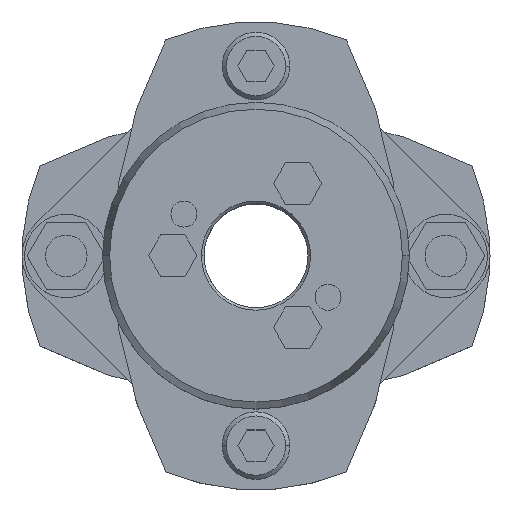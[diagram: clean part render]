
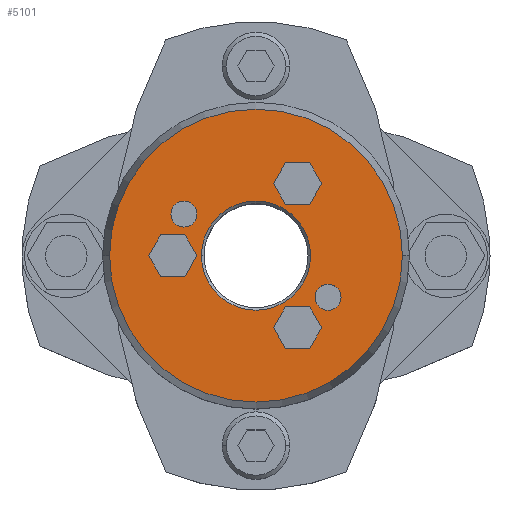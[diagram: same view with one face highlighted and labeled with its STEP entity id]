
A CAD part, top view. The second image highlights one B-rep face of the part: STEP entity #5101.
In plain terms, the highlighted planar face has unit normal (0, 0, 1).
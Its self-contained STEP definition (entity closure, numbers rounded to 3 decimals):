
#857=CARTESIAN_POINT('',(-10.5,0.,39.25));
#858=VERTEX_POINT('',#857);
#874=CARTESIAN_POINT('',(10.5,0.,39.25));
#875=VERTEX_POINT('',#874);
#882=CARTESIAN_POINT('',(0.,0.,39.25));
#883=DIRECTION('',(0.0,0.0,1.0));
#884=DIRECTION('',(-1.0,0.0,0.0));
#885=AXIS2_PLACEMENT_3D('',#882,#883,#884);
#886=CIRCLE('',#885,10.5);
#887=EDGE_CURVE('',#875,#858,#886,.T.);
#1045=CARTESIAN_POINT('',(28.16,0.,39.25));
#1046=VERTEX_POINT('',#1045);
#1053=CARTESIAN_POINT('',(-28.16,0.,39.25));
#1054=VERTEX_POINT('',#1053);
#1055=CARTESIAN_POINT('',(0.,0.,39.25));
#1056=DIRECTION('',(0.0,0.0,-1.0));
#1057=DIRECTION('',(1.0,0.0,0.0));
#1058=AXIS2_PLACEMENT_3D('',#1055,#1056,#1057);
#1059=CIRCLE('',#1058,28.16);
#1060=EDGE_CURVE('',#1046,#1054,#1059,.T.);
#1303=CARTESIAN_POINT('',(-16.356,8.,39.25));
#1304=VERTEX_POINT('',#1303);
#1320=CARTESIAN_POINT('',(-11.356,8.,39.25));
#1321=VERTEX_POINT('',#1320);
#1328=CARTESIAN_POINT('',(-13.856,8.,39.25));
#1329=DIRECTION('',(0.0,0.0,-1.0));
#1330=DIRECTION('',(-1.0,0.0,0.0));
#1331=AXIS2_PLACEMENT_3D('',#1328,#1329,#1330);
#1332=CIRCLE('',#1331,2.5);
#1333=EDGE_CURVE('',#1304,#1321,#1332,.T.);
#1345=CARTESIAN_POINT('',(11.356,-8.,39.25));
#1346=VERTEX_POINT('',#1345);
#1362=CARTESIAN_POINT('',(16.356,-8.,39.25));
#1363=VERTEX_POINT('',#1362);
#1370=CARTESIAN_POINT('',(13.856,-8.,39.25));
#1371=DIRECTION('',(0.0,0.0,-1.0));
#1372=DIRECTION('',(-1.0,0.0,0.0));
#1373=AXIS2_PLACEMENT_3D('',#1370,#1371,#1372);
#1374=CIRCLE('',#1373,2.5);
#1375=EDGE_CURVE('',#1346,#1363,#1374,.T.);
#3617=CARTESIAN_POINT('',(3.381,13.856,39.25));
#3618=VERTEX_POINT('',#3617);
#3625=CARTESIAN_POINT('',(5.691,9.856,39.25));
#3626=VERTEX_POINT('',#3625);
#3627=CARTESIAN_POINT('',(5.691,9.856,39.25));
#3628=DIRECTION('',(-0.5,0.866,0.0));
#3629=VECTOR('',#3628,4.619);
#3630=LINE('',#3627,#3629);
#3631=EDGE_CURVE('',#3626,#3618,#3630,.T.);
#3655=CARTESIAN_POINT('',(5.691,17.856,39.25));
#3656=VERTEX_POINT('',#3655);
#3663=CARTESIAN_POINT('',(3.381,13.856,39.25));
#3664=DIRECTION('',(0.5,0.866,0.0));
#3665=VECTOR('',#3664,4.619);
#3666=LINE('',#3663,#3665);
#3667=EDGE_CURVE('',#3618,#3656,#3666,.T.);
#3686=CARTESIAN_POINT('',(10.309,17.856,39.25));
#3687=VERTEX_POINT('',#3686);
#3694=CARTESIAN_POINT('',(5.691,17.856,39.25));
#3695=DIRECTION('',(1.0,0.0,0.0));
#3696=VECTOR('',#3695,4.619);
#3697=LINE('',#3694,#3696);
#3698=EDGE_CURVE('',#3656,#3687,#3697,.T.);
#3717=CARTESIAN_POINT('',(12.619,13.856,39.25));
#3718=VERTEX_POINT('',#3717);
#3725=CARTESIAN_POINT('',(10.309,17.856,39.25));
#3726=DIRECTION('',(0.5,-0.866,0.0));
#3727=VECTOR('',#3726,4.619);
#3728=LINE('',#3725,#3727);
#3729=EDGE_CURVE('',#3687,#3718,#3728,.T.);
#3748=CARTESIAN_POINT('',(10.309,9.856,39.25));
#3749=VERTEX_POINT('',#3748);
#3756=CARTESIAN_POINT('',(12.619,13.856,39.25));
#3757=DIRECTION('',(-0.5,-0.866,0.0));
#3758=VECTOR('',#3757,4.619);
#3759=LINE('',#3756,#3758);
#3760=EDGE_CURVE('',#3718,#3749,#3759,.T.);
#3778=CARTESIAN_POINT('',(10.309,9.856,39.25));
#3779=DIRECTION('',(-1.0,0.0,0.0));
#3780=VECTOR('',#3779,4.619);
#3781=LINE('',#3778,#3780);
#3782=EDGE_CURVE('',#3749,#3626,#3781,.T.);
#3817=CARTESIAN_POINT('',(-20.619,0.,39.25));
#3818=VERTEX_POINT('',#3817);
#3825=CARTESIAN_POINT('',(-18.309,-4.,39.25));
#3826=VERTEX_POINT('',#3825);
#3827=CARTESIAN_POINT('',(-18.309,-4.,39.25));
#3828=DIRECTION('',(-0.5,0.866,0.0));
#3829=VECTOR('',#3828,4.619);
#3830=LINE('',#3827,#3829);
#3831=EDGE_CURVE('',#3826,#3818,#3830,.T.);
#3855=CARTESIAN_POINT('',(-18.309,4.,39.25));
#3856=VERTEX_POINT('',#3855);
#3863=CARTESIAN_POINT('',(-20.619,0.,39.25));
#3864=DIRECTION('',(0.5,0.866,0.0));
#3865=VECTOR('',#3864,4.619);
#3866=LINE('',#3863,#3865);
#3867=EDGE_CURVE('',#3818,#3856,#3866,.T.);
#3886=CARTESIAN_POINT('',(-13.691,4.,39.25));
#3887=VERTEX_POINT('',#3886);
#3894=CARTESIAN_POINT('',(-18.309,4.,39.25));
#3895=DIRECTION('',(1.0,0.0,0.0));
#3896=VECTOR('',#3895,4.619);
#3897=LINE('',#3894,#3896);
#3898=EDGE_CURVE('',#3856,#3887,#3897,.T.);
#3917=CARTESIAN_POINT('',(-11.381,0.,39.25));
#3918=VERTEX_POINT('',#3917);
#3925=CARTESIAN_POINT('',(-13.691,4.,39.25));
#3926=DIRECTION('',(0.5,-0.866,0.0));
#3927=VECTOR('',#3926,4.619);
#3928=LINE('',#3925,#3927);
#3929=EDGE_CURVE('',#3887,#3918,#3928,.T.);
#3948=CARTESIAN_POINT('',(-13.691,-4.,39.25));
#3949=VERTEX_POINT('',#3948);
#3956=CARTESIAN_POINT('',(-11.381,0.,39.25));
#3957=DIRECTION('',(-0.5,-0.866,0.0));
#3958=VECTOR('',#3957,4.619);
#3959=LINE('',#3956,#3958);
#3960=EDGE_CURVE('',#3918,#3949,#3959,.T.);
#3978=CARTESIAN_POINT('',(-13.691,-4.,39.25));
#3979=DIRECTION('',(-1.0,0.0,0.0));
#3980=VECTOR('',#3979,4.619);
#3981=LINE('',#3978,#3980);
#3982=EDGE_CURVE('',#3949,#3826,#3981,.T.);
#4017=CARTESIAN_POINT('',(3.381,-13.856,39.25));
#4018=VERTEX_POINT('',#4017);
#4025=CARTESIAN_POINT('',(5.691,-17.856,39.25));
#4026=VERTEX_POINT('',#4025);
#4027=CARTESIAN_POINT('',(5.691,-17.856,39.25));
#4028=DIRECTION('',(-0.5,0.866,0.0));
#4029=VECTOR('',#4028,4.619);
#4030=LINE('',#4027,#4029);
#4031=EDGE_CURVE('',#4026,#4018,#4030,.T.);
#4055=CARTESIAN_POINT('',(5.691,-9.856,39.25));
#4056=VERTEX_POINT('',#4055);
#4063=CARTESIAN_POINT('',(3.381,-13.856,39.25));
#4064=DIRECTION('',(0.5,0.866,0.0));
#4065=VECTOR('',#4064,4.619);
#4066=LINE('',#4063,#4065);
#4067=EDGE_CURVE('',#4018,#4056,#4066,.T.);
#4086=CARTESIAN_POINT('',(10.309,-9.856,39.25));
#4087=VERTEX_POINT('',#4086);
#4094=CARTESIAN_POINT('',(5.691,-9.856,39.25));
#4095=DIRECTION('',(1.0,0.0,0.0));
#4096=VECTOR('',#4095,4.619);
#4097=LINE('',#4094,#4096);
#4098=EDGE_CURVE('',#4056,#4087,#4097,.T.);
#4117=CARTESIAN_POINT('',(12.619,-13.856,39.25));
#4118=VERTEX_POINT('',#4117);
#4125=CARTESIAN_POINT('',(10.309,-9.856,39.25));
#4126=DIRECTION('',(0.5,-0.866,0.0));
#4127=VECTOR('',#4126,4.619);
#4128=LINE('',#4125,#4127);
#4129=EDGE_CURVE('',#4087,#4118,#4128,.T.);
#4148=CARTESIAN_POINT('',(10.309,-17.856,39.25));
#4149=VERTEX_POINT('',#4148);
#4156=CARTESIAN_POINT('',(12.619,-13.856,39.25));
#4157=DIRECTION('',(-0.5,-0.866,0.0));
#4158=VECTOR('',#4157,4.619);
#4159=LINE('',#4156,#4158);
#4160=EDGE_CURVE('',#4118,#4149,#4159,.T.);
#4178=CARTESIAN_POINT('',(10.309,-17.856,39.25));
#4179=DIRECTION('',(-1.0,0.0,0.0));
#4180=VECTOR('',#4179,4.619);
#4181=LINE('',#4178,#4180);
#4182=EDGE_CURVE('',#4149,#4026,#4181,.T.);
#4208=CARTESIAN_POINT('',(13.856,-8.,39.25));
#4209=DIRECTION('',(0.0,0.0,-1.0));
#4210=DIRECTION('',(-1.0,0.0,0.0));
#4211=AXIS2_PLACEMENT_3D('',#4208,#4209,#4210);
#4212=CIRCLE('',#4211,2.5);
#4213=EDGE_CURVE('',#1363,#1346,#4212,.T.);
#4242=CARTESIAN_POINT('',(-13.856,8.,39.25));
#4243=DIRECTION('',(0.0,0.0,-1.0));
#4244=DIRECTION('',(-1.0,0.0,0.0));
#4245=AXIS2_PLACEMENT_3D('',#4242,#4243,#4244);
#4246=CIRCLE('',#4245,2.5);
#4247=EDGE_CURVE('',#1321,#1304,#4246,.T.);
#5040=CARTESIAN_POINT('',(0.,0.,39.25));
#5041=DIRECTION('',(0.0,0.0,-1.0));
#5042=DIRECTION('',(1.0,0.0,0.0));
#5043=AXIS2_PLACEMENT_3D('',#5040,#5041,#5042);
#5044=CIRCLE('',#5043,28.16);
#5045=EDGE_CURVE('',#1054,#1046,#5044,.T.);
#5050=CARTESIAN_POINT('',(-2.682,0.,39.25));
#5051=DIRECTION('',(0.0,0.0,1.0));
#5052=DIRECTION('',(-1.0,0.0,0.0));
#5053=AXIS2_PLACEMENT_3D('',#5050,#5051,#5052);
#5054=PLANE('',#5053);
#5055=ORIENTED_EDGE('',*,*,#5045,.F.);
#5056=ORIENTED_EDGE('',*,*,#1060,.F.);
#5057=EDGE_LOOP('',(#5055,#5056));
#5058=FACE_OUTER_BOUND('',#5057,.T.);
#5059=ORIENTED_EDGE('',*,*,#3631,.T.);
#5060=ORIENTED_EDGE('',*,*,#3667,.T.);
#5061=ORIENTED_EDGE('',*,*,#3698,.T.);
#5062=ORIENTED_EDGE('',*,*,#3729,.T.);
#5063=ORIENTED_EDGE('',*,*,#3760,.T.);
#5064=ORIENTED_EDGE('',*,*,#3782,.T.);
#5065=EDGE_LOOP('',(#5059,#5060,#5061,#5062,#5063,#5064));
#5066=FACE_BOUND('',#5065,.T.);
#5067=ORIENTED_EDGE('',*,*,#3831,.T.);
#5068=ORIENTED_EDGE('',*,*,#3867,.T.);
#5069=ORIENTED_EDGE('',*,*,#3898,.T.);
#5070=ORIENTED_EDGE('',*,*,#3929,.T.);
#5071=ORIENTED_EDGE('',*,*,#3960,.T.);
#5072=ORIENTED_EDGE('',*,*,#3982,.T.);
#5073=EDGE_LOOP('',(#5067,#5068,#5069,#5070,#5071,#5072));
#5074=FACE_BOUND('',#5073,.T.);
#5075=ORIENTED_EDGE('',*,*,#4031,.T.);
#5076=ORIENTED_EDGE('',*,*,#4067,.T.);
#5077=ORIENTED_EDGE('',*,*,#4098,.T.);
#5078=ORIENTED_EDGE('',*,*,#4129,.T.);
#5079=ORIENTED_EDGE('',*,*,#4160,.T.);
#5080=ORIENTED_EDGE('',*,*,#4182,.T.);
#5081=EDGE_LOOP('',(#5075,#5076,#5077,#5078,#5079,#5080));
#5082=FACE_BOUND('',#5081,.T.);
#5083=ORIENTED_EDGE('',*,*,#1375,.T.);
#5084=ORIENTED_EDGE('',*,*,#4213,.T.);
#5085=EDGE_LOOP('',(#5083,#5084));
#5086=FACE_BOUND('',#5085,.T.);
#5087=ORIENTED_EDGE('',*,*,#1333,.T.);
#5088=ORIENTED_EDGE('',*,*,#4247,.T.);
#5089=EDGE_LOOP('',(#5087,#5088));
#5090=FACE_BOUND('',#5089,.T.);
#5091=ORIENTED_EDGE('',*,*,#887,.F.);
#5092=CARTESIAN_POINT('',(0.,0.,39.25));
#5093=DIRECTION('',(0.0,0.0,1.0));
#5094=DIRECTION('',(-1.0,0.0,0.0));
#5095=AXIS2_PLACEMENT_3D('',#5092,#5093,#5094);
#5096=CIRCLE('',#5095,10.5);
#5097=EDGE_CURVE('',#858,#875,#5096,.T.);
#5098=ORIENTED_EDGE('',*,*,#5097,.F.);
#5099=EDGE_LOOP('',(#5091,#5098));
#5100=FACE_BOUND('',#5099,.T.);
#5101=ADVANCED_FACE('',(#5058,#5066,#5074,#5082,#5086,#5090,#5100),#5054,.T.);
